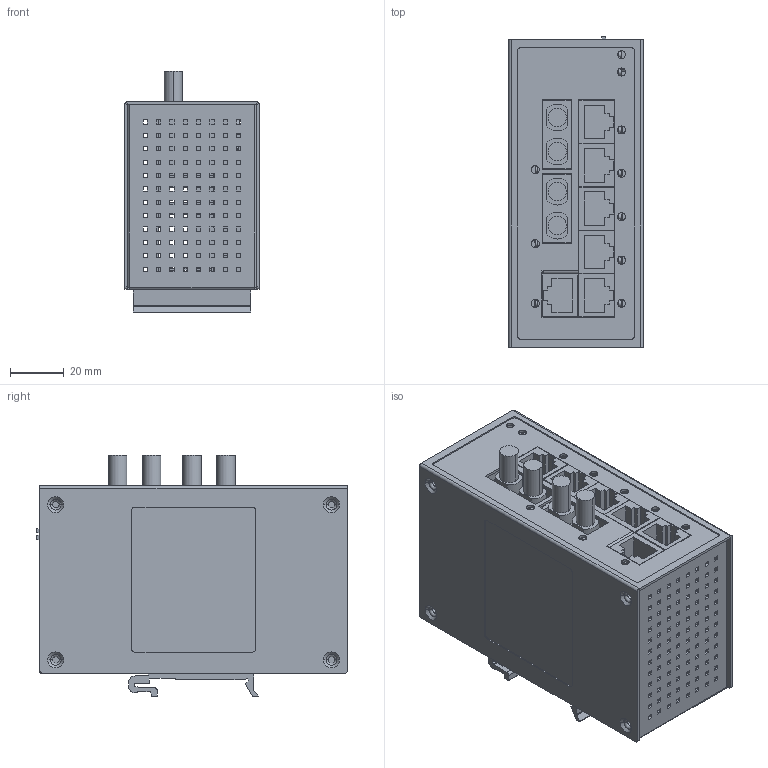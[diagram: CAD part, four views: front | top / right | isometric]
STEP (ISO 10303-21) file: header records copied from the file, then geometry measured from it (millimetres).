
FILE_DESCRIPTION((''),'2;1');
FILE_NAME('EDS-208A-MM-ST','2010-08-17T',('Chialu_Chang'),(''),'PRO/ENGINEER BY PARAMETRIC TECHNOLOGY CORPORATION, 2004440','PRO/ENGINEER BY PARAMETRIC TECHNOLOGY CORPORATION, 2004440','');
FILE_SCHEMA(('CONFIG_CONTROL_DESIGN'));
Products named in the file (1): EDS-208A-MM-ST
Bounding box: 50.3 x 116.2 x 90.3 mm (x, y, z)
Surface area: 147844.2 mm2 (no closed solid volume)
Topology: 0 solids, 67 shells, 3901 faces, 9754 edges, 6222 vertices
Faces by surface type: plane 3245, cylinder 546, torus 64, cone 46
Entity records: 115324 total; most frequent: CARTESIAN_POINT 19957, ORIENTED_EDGE 19500, DIRECTION 19026, EDGE_CURVE 9754, VECTOR 8264, LINE 8264, VERTEX_POINT 6222, AXIS2_PLACEMENT_3D 5381
